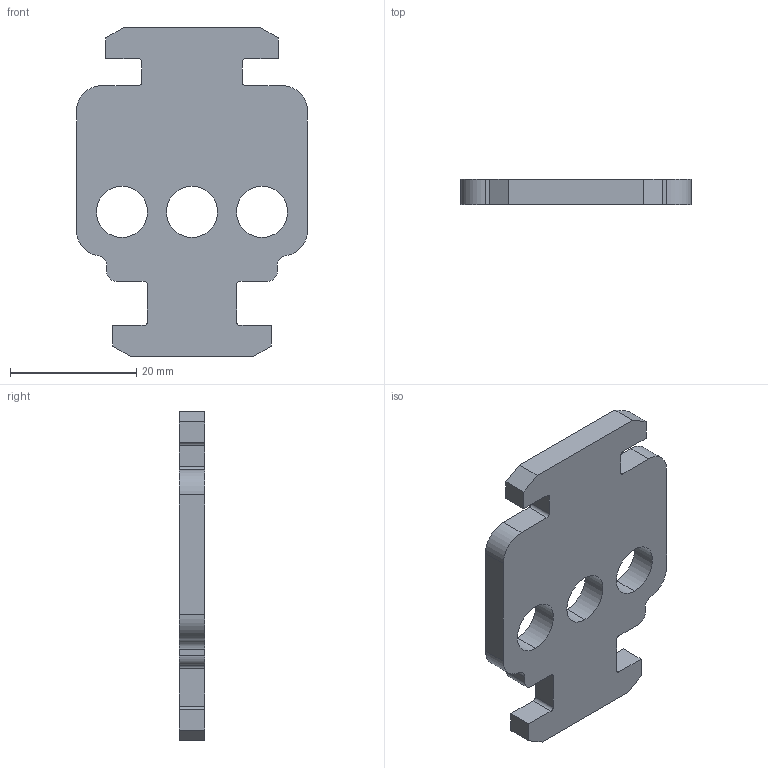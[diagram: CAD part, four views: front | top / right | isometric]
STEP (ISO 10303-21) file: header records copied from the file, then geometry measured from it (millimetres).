
FILE_DESCRIPTION (( 'STEP AP214' ), '1' );
FILE_NAME ('Óñòðîéñòâî áëîêèðîâêè ïîëîæåíèÿ îòêëþ÷åíî OptiMat D250.STEP', '2023-04-03T03:25:00', ( '' ), ( '' ), 'SwSTEP 2.0', 'SolidWorks 2018', '' );
FILE_SCHEMA (( 'AUTOMOTIVE_DESIGN' ));
Length unit declared in the file: millimetre
Products named in the file (1): Óñòðîéñòâî áëîêèðîâêè ïîëîæåíèÿ îòêëþ÷åíî OptiMat D250
Bounding box: 36.6 x 4 x 52.3 mm (x, y, z)
Volume: 5396 mm3; surface area: 3829.2 mm2
Topology: 1 solids, 1 shells, 50 faces, 144 edges, 96 vertices
Faces by surface type: plane 28, cylinder 22
Entity records: 1698 total; most frequent: CARTESIAN_POINT 291, DIRECTION 290, ORIENTED_EDGE 288, EDGE_CURVE 144, VECTOR 100, LINE 100, VERTEX_POINT 96, AXIS2_PLACEMENT_3D 95
